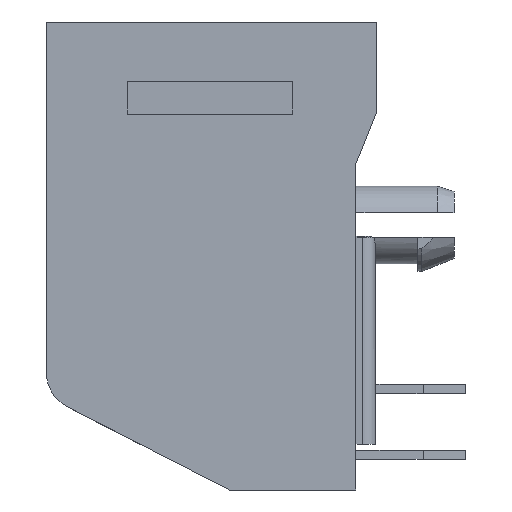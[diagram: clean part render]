
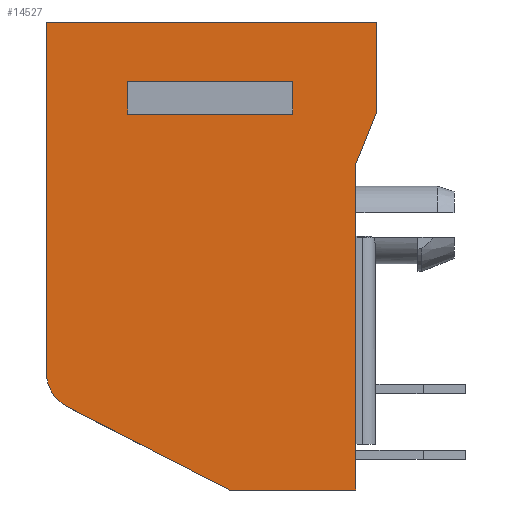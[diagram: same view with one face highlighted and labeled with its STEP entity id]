
A CAD part, left-side view. The second image highlights one B-rep face of the part: STEP entity #14527.
In plain terms, the highlighted planar face has unit normal (-1, 0, 0).
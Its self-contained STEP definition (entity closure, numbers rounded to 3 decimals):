
#1=DIRECTION('',(0.,1.,0.));
#2=VECTOR('',#1,6.4);
#3=CARTESIAN_POINT('',(-15.1,16.05,-3.57));
#4=LINE('',#3,#2);
#17=DIRECTION('',(0.,0.371,-0.928));
#18=VECTOR('',#17,2.154);
#19=CARTESIAN_POINT('',(-15.1,12.8,-3.5));
#20=LINE('',#19,#18);
#21=DIRECTION('',(0.,0.,-1.));
#22=VECTOR('',#21,12.64);
#23=CARTESIAN_POINT('',(-15.1,13.6,-5.5));
#24=LINE('',#23,#22);
#25=DIRECTION('',(0.,1.,0.));
#26=VECTOR('',#25,4.9);
#27=CARTESIAN_POINT('',(-15.1,13.6,-18.14));
#28=LINE('',#27,#26);
#29=DIRECTION('',(0.,0.89,0.456));
#30=VECTOR('',#29,7.062);
#31=CARTESIAN_POINT('',(-15.1,18.5,-18.14));
#32=LINE('',#31,#30);
#33=CARTESIAN_POINT('',(-15.1,24.1,-13.583));
#34=DIRECTION('',(1.,0.,0.));
#35=DIRECTION('',(0.,0.456,-0.89));
#36=AXIS2_PLACEMENT_3D('',#33,#34,#35);
#38=DIRECTION('',(0.,0.,1.));
#39=VECTOR('',#38,13.583);
#40=CARTESIAN_POINT('',(-15.1,25.6,-13.583));
#41=LINE('',#40,#39);
#42=DIRECTION('',(0.,-1.,0.));
#43=VECTOR('',#42,12.8);
#44=CARTESIAN_POINT('',(-15.1,25.6,0.));
#45=LINE('',#44,#43);
#46=DIRECTION('',(0.,1.,0.));
#47=VECTOR('',#46,6.4);
#48=CARTESIAN_POINT('',(-15.1,16.05,-2.3));
#49=LINE('',#48,#47);
#50=DIRECTION('',(0.,0.,-1.));
#51=VECTOR('',#50,1.27);
#52=CARTESIAN_POINT('',(-15.1,22.45,-2.3));
#53=LINE('',#52,#51);
#54=DIRECTION('',(0.,0.,1.));
#55=VECTOR('',#54,1.27);
#56=CARTESIAN_POINT('',(-15.1,16.05,-3.57));
#57=LINE('',#56,#55);
#102=DIRECTION('',(0.,0.,1.));
#103=VECTOR('',#102,3.5);
#104=CARTESIAN_POINT('',(-15.1,12.8,-3.5));
#105=LINE('',#104,#103);
#14356=CARTESIAN_POINT('',(-15.1,25.6,-13.583));
#14358=VERTEX_POINT('',#14356);
#14360=CARTESIAN_POINT('',(-15.1,24.784,-14.918));
#14361=VERTEX_POINT('',#14360);
#14400=CARTESIAN_POINT('',(-15.1,12.8,-3.5));
#14401=VERTEX_POINT('',#14400);
#14402=CARTESIAN_POINT('',(-15.1,13.6,-5.5));
#14403=VERTEX_POINT('',#14402);
#14404=CARTESIAN_POINT('',(-15.1,13.6,-18.14));
#14405=VERTEX_POINT('',#14404);
#14406=CARTESIAN_POINT('',(-15.1,18.5,-18.14));
#14407=VERTEX_POINT('',#14406);
#14408=CARTESIAN_POINT('',(-15.1,16.05,-2.3));
#14409=CARTESIAN_POINT('',(-15.1,22.45,-2.3));
#14410=VERTEX_POINT('',#14408);
#14411=VERTEX_POINT('',#14409);
#14416=CARTESIAN_POINT('',(-15.1,22.45,-3.57));
#14417=VERTEX_POINT('',#14416);
#14422=CARTESIAN_POINT('',(-15.1,16.05,-3.57));
#14423=VERTEX_POINT('',#14422);
#14425=CARTESIAN_POINT('',(-15.1,25.6,0.));
#14427=VERTEX_POINT('',#14425);
#14477=CARTESIAN_POINT('',(-15.1,12.8,0.));
#14478=VERTEX_POINT('',#14477);
#14495=CARTESIAN_POINT('',(-15.1,19.2,-9.07));
#14496=DIRECTION('',(1.,0.,0.));
#14497=DIRECTION('',(0.,0.,1.));
#14498=AXIS2_PLACEMENT_3D('',#14495,#14496,#14497);
#14499=PLANE('',#14498);
#14501=ORIENTED_EDGE('',*,*,#14500,.F.);
#14503=ORIENTED_EDGE('',*,*,#14502,.T.);
#14505=ORIENTED_EDGE('',*,*,#14504,.T.);
#14507=ORIENTED_EDGE('',*,*,#14506,.T.);
#14509=ORIENTED_EDGE('',*,*,#14508,.T.);
#14511=ORIENTED_EDGE('',*,*,#14510,.T.);
#14513=ORIENTED_EDGE('',*,*,#14512,.T.);
#14515=ORIENTED_EDGE('',*,*,#14514,.T.);
#14516=EDGE_LOOP('',(#14501,#14503,#14505,#14507,#14509,#14511,#14513,#14515));
#14517=FACE_OUTER_BOUND('',#14516,.F.);
#14519=ORIENTED_EDGE('',*,*,#14518,.T.);
#14521=ORIENTED_EDGE('',*,*,#14520,.T.);
#14522=ORIENTED_EDGE('',*,*,#14484,.F.);
#14524=ORIENTED_EDGE('',*,*,#14523,.T.);
#14525=EDGE_LOOP('',(#14519,#14521,#14522,#14524));
#14526=FACE_BOUND('',#14525,.F.);
#14527=ADVANCED_FACE('',(#14517,#14526),#14499,.F.);
#37=CIRCLE('',#36,1.5);
#14484=EDGE_CURVE('',#14423,#14417,#4,.T.);
#14500=EDGE_CURVE('',#14401,#14478,#105,.T.);
#14502=EDGE_CURVE('',#14401,#14403,#20,.T.);
#14504=EDGE_CURVE('',#14403,#14405,#24,.T.);
#14506=EDGE_CURVE('',#14405,#14407,#28,.T.);
#14508=EDGE_CURVE('',#14407,#14361,#32,.T.);
#14510=EDGE_CURVE('',#14361,#14358,#37,.T.);
#14512=EDGE_CURVE('',#14358,#14427,#41,.T.);
#14514=EDGE_CURVE('',#14427,#14478,#45,.T.);
#14518=EDGE_CURVE('',#14410,#14411,#49,.T.);
#14520=EDGE_CURVE('',#14411,#14417,#53,.T.);
#14523=EDGE_CURVE('',#14423,#14410,#57,.T.);
